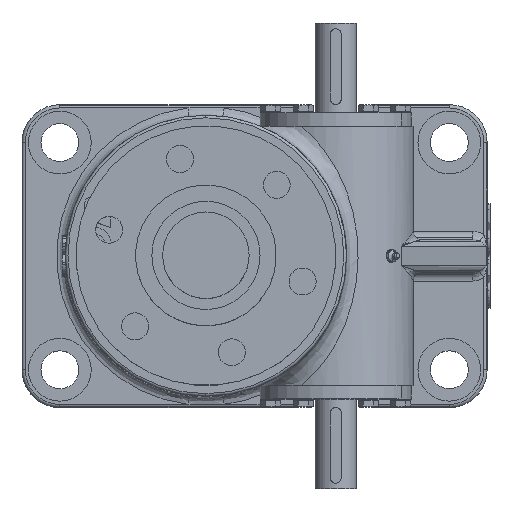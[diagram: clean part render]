
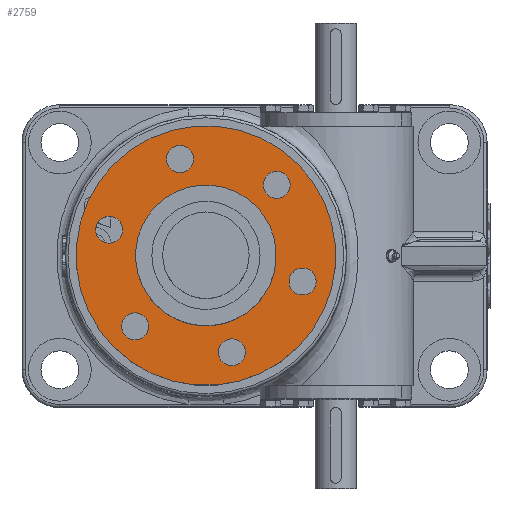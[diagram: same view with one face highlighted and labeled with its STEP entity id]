
A CAD part, top view. The second image highlights one B-rep face of the part: STEP entity #2759.
In plain terms, the highlighted planar face has unit normal (0, 0, 1).
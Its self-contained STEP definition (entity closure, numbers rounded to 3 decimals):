
#2759=ADVANCED_FACE('',(#8138,#8139,#8140,#8141,#8142,#8143,#8144,#8145),#8146,.T.);
#8138=FACE_BOUND('',#15874,.T.);
#8139=FACE_BOUND('',#15875,.T.);
#8140=FACE_BOUND('',#15876,.T.);
#8141=FACE_BOUND('',#15877,.T.);
#8142=FACE_BOUND('',#15878,.T.);
#8143=FACE_BOUND('',#15879,.T.);
#8144=FACE_OUTER_BOUND('',#15880,.T.);
#8145=FACE_BOUND('',#15881,.T.);
#8146=PLANE('',#15882);
#15874=EDGE_LOOP('',(#37528,#37529));
#15875=EDGE_LOOP('',(#37530,#37531));
#15876=EDGE_LOOP('',(#37532,#37533));
#15877=EDGE_LOOP('',(#37534,#37535));
#15878=EDGE_LOOP('',(#37536,#37537));
#15879=EDGE_LOOP('',(#37538,#37539));
#15880=EDGE_LOOP('',(#37540,#37541));
#15881=EDGE_LOOP('',(#37542,#37543));
#15882=AXIS2_PLACEMENT_3D('',#37544,#37545,#37546);
#37528=ORIENTED_EDGE('',*,*,#44835,.T.);
#37529=ORIENTED_EDGE('',*,*,#44831,.T.);
#37530=ORIENTED_EDGE('',*,*,#44837,.T.);
#37531=ORIENTED_EDGE('',*,*,#44827,.T.);
#37532=ORIENTED_EDGE('',*,*,#44839,.T.);
#37533=ORIENTED_EDGE('',*,*,#44823,.T.);
#37534=ORIENTED_EDGE('',*,*,#44841,.T.);
#37535=ORIENTED_EDGE('',*,*,#44819,.T.);
#37536=ORIENTED_EDGE('',*,*,#44843,.T.);
#37537=ORIENTED_EDGE('',*,*,#44815,.T.);
#37538=ORIENTED_EDGE('',*,*,#44845,.T.);
#37539=ORIENTED_EDGE('',*,*,#44811,.T.);
#37540=ORIENTED_EDGE('',*,*,#44809,.T.);
#37541=ORIENTED_EDGE('',*,*,#44846,.T.);
#37542=ORIENTED_EDGE('',*,*,#44847,.F.);
#37543=ORIENTED_EDGE('',*,*,#44803,.F.);
#37544=CARTESIAN_POINT('',(0.0,0.0,315.));
#37545=DIRECTION('',(0.0,-0.0,1.0));
#37546=DIRECTION('',(0.707,0.707,0.0));
#44803=EDGE_CURVE('',#56632,#56635,#56636,.T.);
#44809=EDGE_CURVE('',#56641,#56645,#56647,.T.);
#44811=EDGE_CURVE('',#56651,#56648,#56652,.T.);
#44815=EDGE_CURVE('',#56659,#56656,#56660,.T.);
#44819=EDGE_CURVE('',#56667,#56664,#56668,.T.);
#44823=EDGE_CURVE('',#56675,#56672,#56676,.T.);
#44827=EDGE_CURVE('',#56683,#56680,#56684,.T.);
#44831=EDGE_CURVE('',#56691,#56688,#56692,.T.);
#44835=EDGE_CURVE('',#56688,#56691,#56697,.T.);
#44837=EDGE_CURVE('',#56680,#56683,#56699,.T.);
#44839=EDGE_CURVE('',#56672,#56675,#56701,.T.);
#44841=EDGE_CURVE('',#56664,#56667,#56703,.T.);
#44843=EDGE_CURVE('',#56656,#56659,#56705,.T.);
#44845=EDGE_CURVE('',#56648,#56651,#56707,.T.);
#44846=EDGE_CURVE('',#56645,#56641,#56708,.T.);
#44847=EDGE_CURVE('',#56635,#56632,#56709,.T.);
#56632=VERTEX_POINT('',#74866);
#56635=VERTEX_POINT('',#74870);
#56636=CIRCLE('',#74871,65.);
#56641=VERTEX_POINT('',#74877);
#56645=VERTEX_POINT('',#74882);
#56647=CIRCLE('',#74885,120.);
#56648=VERTEX_POINT('',#74886);
#56651=VERTEX_POINT('',#74890);
#56652=CIRCLE('',#74891,12.5);
#56656=VERTEX_POINT('',#74896);
#56659=VERTEX_POINT('',#74900);
#56660=CIRCLE('',#74901,12.5);
#56664=VERTEX_POINT('',#74906);
#56667=VERTEX_POINT('',#74910);
#56668=CIRCLE('',#74911,12.5);
#56672=VERTEX_POINT('',#74916);
#56675=VERTEX_POINT('',#74920);
#56676=CIRCLE('',#74921,12.5);
#56680=VERTEX_POINT('',#74926);
#56683=VERTEX_POINT('',#74930);
#56684=CIRCLE('',#74931,12.5);
#56688=VERTEX_POINT('',#74936);
#56691=VERTEX_POINT('',#74940);
#56692=CIRCLE('',#74941,12.5);
#56697=CIRCLE('',#74947,12.5);
#56699=CIRCLE('',#74949,12.5);
#56701=CIRCLE('',#74951,12.5);
#56703=CIRCLE('',#74953,12.5);
#56705=CIRCLE('',#74955,12.5);
#56707=CIRCLE('',#74957,12.5);
#56708=CIRCLE('',#74958,120.);
#56709=CIRCLE('',#74959,65.);
#74866=CARTESIAN_POINT('',(45.962,45.962,315.));
#74870=CARTESIAN_POINT('',(-45.962,-45.962,315.));
#74871=AXIS2_PLACEMENT_3D('',#89450,#89451,#89452);
#74877=CARTESIAN_POINT('',(84.853,84.853,315.));
#74882=CARTESIAN_POINT('',(-84.853,-84.853,315.));
#74885=AXIS2_PLACEMENT_3D('',#89462,#89463,#89464);
#74886=CARTESIAN_POINT('',(74.246,74.246,315.));
#74890=CARTESIAN_POINT('',(56.569,56.569,315.));
#74891=AXIS2_PLACEMENT_3D('',#89466,#89467,#89468);
#74896=CARTESIAN_POINT('',(-27.176,101.422,315.));
#74900=CARTESIAN_POINT('',(-20.706,77.274,315.));
#74901=AXIS2_PLACEMENT_3D('',#89474,#89475,#89476);
#74906=CARTESIAN_POINT('',(-101.422,27.176,315.));
#74910=CARTESIAN_POINT('',(-77.274,20.706,315.));
#74911=AXIS2_PLACEMENT_3D('',#89482,#89483,#89484);
#74916=CARTESIAN_POINT('',(-74.246,-74.246,315.));
#74920=CARTESIAN_POINT('',(-56.569,-56.569,315.));
#74921=AXIS2_PLACEMENT_3D('',#89490,#89491,#89492);
#74926=CARTESIAN_POINT('',(27.176,-101.422,315.));
#74930=CARTESIAN_POINT('',(20.706,-77.274,315.));
#74931=AXIS2_PLACEMENT_3D('',#89498,#89499,#89500);
#74936=CARTESIAN_POINT('',(101.422,-27.176,315.));
#74940=CARTESIAN_POINT('',(77.274,-20.706,315.));
#74941=AXIS2_PLACEMENT_3D('',#89506,#89507,#89508);
#74947=AXIS2_PLACEMENT_3D('',#89516,#89517,#89518);
#74949=AXIS2_PLACEMENT_3D('',#89522,#89523,#89524);
#74951=AXIS2_PLACEMENT_3D('',#89528,#89529,#89530);
#74953=AXIS2_PLACEMENT_3D('',#89534,#89535,#89536);
#74955=AXIS2_PLACEMENT_3D('',#89540,#89541,#89542);
#74957=AXIS2_PLACEMENT_3D('',#89546,#89547,#89548);
#74958=AXIS2_PLACEMENT_3D('',#89549,#89550,#89551);
#74959=AXIS2_PLACEMENT_3D('',#89552,#89553,#89554);
#89450=CARTESIAN_POINT('',(0.0,0.0,315.));
#89451=DIRECTION('',(0.0,-0.0,1.0));
#89452=DIRECTION('',(0.707,0.707,0.0));
#89462=CARTESIAN_POINT('',(0.0,0.0,315.));
#89463=DIRECTION('',(0.0,-0.0,1.0));
#89464=DIRECTION('',(0.707,0.707,0.0));
#89466=CARTESIAN_POINT('',(65.407,65.407,315.));
#89467=DIRECTION('',(0.0,0.0,-1.0));
#89468=DIRECTION('',(0.707,0.707,0.0));
#89474=CARTESIAN_POINT('',(-23.941,89.348,315.));
#89475=DIRECTION('',(-0.0,0.0,-1.0));
#89476=DIRECTION('',(-0.259,0.966,0.0));
#89482=CARTESIAN_POINT('',(-89.348,23.941,315.));
#89483=DIRECTION('',(-0.0,0.0,-1.0));
#89484=DIRECTION('',(-0.966,0.259,0.0));
#89490=CARTESIAN_POINT('',(-65.407,-65.407,315.));
#89491=DIRECTION('',(-0.0,0.0,-1.0));
#89492=DIRECTION('',(-0.707,-0.707,0.0));
#89498=CARTESIAN_POINT('',(23.941,-89.348,315.));
#89499=DIRECTION('',(0.0,-0.0,-1.0));
#89500=DIRECTION('',(0.259,-0.966,0.0));
#89506=CARTESIAN_POINT('',(89.348,-23.941,315.));
#89507=DIRECTION('',(0.0,-0.0,-1.0));
#89508=DIRECTION('',(0.966,-0.259,0.0));
#89516=CARTESIAN_POINT('',(89.348,-23.941,315.));
#89517=DIRECTION('',(0.0,-0.0,-1.0));
#89518=DIRECTION('',(0.966,-0.259,0.0));
#89522=CARTESIAN_POINT('',(23.941,-89.348,315.));
#89523=DIRECTION('',(0.0,-0.0,-1.0));
#89524=DIRECTION('',(0.259,-0.966,0.0));
#89528=CARTESIAN_POINT('',(-65.407,-65.407,315.));
#89529=DIRECTION('',(-0.0,0.0,-1.0));
#89530=DIRECTION('',(-0.707,-0.707,0.0));
#89534=CARTESIAN_POINT('',(-89.348,23.941,315.));
#89535=DIRECTION('',(-0.0,0.0,-1.0));
#89536=DIRECTION('',(-0.966,0.259,0.0));
#89540=CARTESIAN_POINT('',(-23.941,89.348,315.));
#89541=DIRECTION('',(-0.0,0.0,-1.0));
#89542=DIRECTION('',(-0.259,0.966,0.0));
#89546=CARTESIAN_POINT('',(65.407,65.407,315.));
#89547=DIRECTION('',(0.0,0.0,-1.0));
#89548=DIRECTION('',(0.707,0.707,0.0));
#89549=CARTESIAN_POINT('',(0.0,0.0,315.));
#89550=DIRECTION('',(0.0,-0.0,1.0));
#89551=DIRECTION('',(0.707,0.707,0.0));
#89552=CARTESIAN_POINT('',(0.0,0.0,315.));
#89553=DIRECTION('',(0.0,-0.0,1.0));
#89554=DIRECTION('',(0.707,0.707,0.0));
